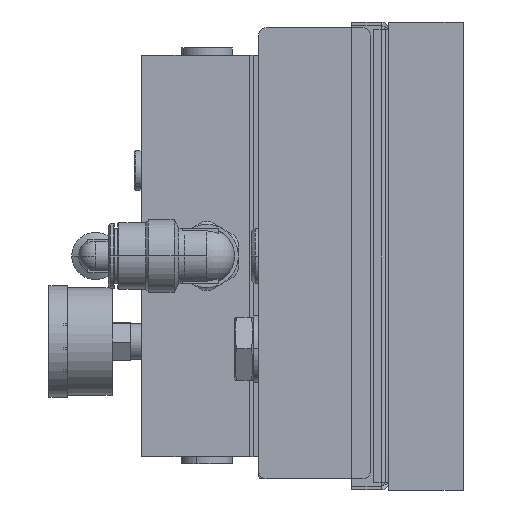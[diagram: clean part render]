
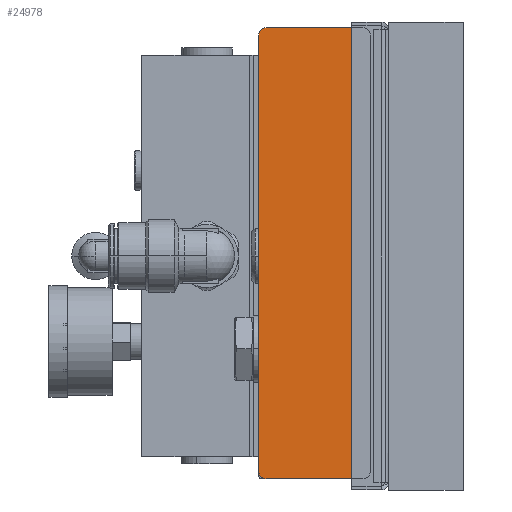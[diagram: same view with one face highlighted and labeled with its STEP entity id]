
A CAD part, left-side view. The second image highlights one B-rep face of the part: STEP entity #24978.
In plain terms, the highlighted planar face has unit normal (-1, 0, 0).
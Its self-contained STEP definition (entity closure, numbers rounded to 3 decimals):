
#198 = ORIENTED_EDGE ( 'NONE', *, *, #12422, .T. ) ;
#199 = ORIENTED_EDGE ( 'NONE', *, *, #24391, .T. ) ;
#200 = ORIENTED_EDGE ( 'NONE', *, *, #11947, .T. ) ;
#201 = ORIENTED_EDGE ( 'NONE', *, *, #24393, .T. ) ;
#202 = ORIENTED_EDGE ( 'NONE', *, *, #12434, .T. ) ;
#203 = ORIENTED_EDGE ( 'NONE', *, *, #11845, .T. ) ;
#306 = ORIENTED_EDGE ( 'NONE', *, *, #11785, .T. ) ;
#308 = ORIENTED_EDGE ( 'NONE', *, *, #12425, .T. ) ;
#1277 = DIRECTION ( 'NONE',  ( 0., 0., -1. ) ) ;
#1280 = CARTESIAN_POINT ( 'NONE',  ( -399.453, 15., -60. ) ) ;
#1282 = DIRECTION ( 'NONE',  ( 0., 1., 0. ) ) ;
#1291 = CARTESIAN_POINT ( 'NONE',  ( -399.453, -15., 61.5 ) ) ;
#2541 = VERTEX_POINT ( 'NONE', #24918 ) ;
#2685 = DIRECTION ( 'NONE',  ( 0., 0., -1. ) ) ;
#3039 = DIRECTION ( 'NONE',  ( -1., 0., 0. ) ) ;
#8381 = VERTEX_POINT ( 'NONE', #30237 ) ;
#8760 = VERTEX_POINT ( 'NONE', #30001 ) ;
#8962 = FACE_OUTER_BOUND ( 'NONE', #23412, .T. ) ;
#9131 = VERTEX_POINT ( 'NONE', #30303 ) ;
#9170 = VERTEX_POINT ( 'NONE', #30290 ) ;
#9235 = VERTEX_POINT ( 'NONE', #30503 ) ;
#9289 = VERTEX_POINT ( 'NONE', #30433 ) ;
#9992 = LINE ( 'NONE', #1291, #10019 ) ;
#10015 = VECTOR ( 'NONE', #1277, 1000. ) ;
#10018 = LINE ( 'NONE', #1280, #10015 ) ;
#10019 = VECTOR ( 'NONE', #1282, 1000. ) ;
#11785 = EDGE_CURVE ( 'NONE', #8760, #8381, #20061, .T. ) ;
#11845 = EDGE_CURVE ( 'NONE', #9289, #9131, #20086, .T. ) ;
#11947 = EDGE_CURVE ( 'NONE', #9170, #8760, #15331, .T. ) ;
#12422 = EDGE_CURVE ( 'NONE', #2541, #9235, #14735, .T. ) ;
#12425 = EDGE_CURVE ( 'NONE', #8381, #9289, #14973, .T. ) ;
#12434 = EDGE_CURVE ( 'NONE', #9131, #37704, #15614, .T. ) ;
#14735 = CIRCLE ( 'NONE', #15177, 2. ) ;
#14898 = AXIS2_PLACEMENT_3D ( 'NONE', #32736, #32435, #32753 ) ;
#14973 = CIRCLE ( 'NONE', #15181, 2. ) ;
#15177 = AXIS2_PLACEMENT_3D ( 'NONE', #16530, #16849, #17070 ) ;
#15181 = AXIS2_PLACEMENT_3D ( 'NONE', #16469, #16523, #16995 ) ;
#15185 = AXIS2_PLACEMENT_3D ( 'NONE', #32818, #3039, #2685 ) ;
#15331 = CIRCLE ( 'NONE', #14898, 2. ) ;
#15614 = CIRCLE ( 'NONE', #15185, 2. ) ;
#16469 = CARTESIAN_POINT ( 'NONE',  ( -399.453, -13., -58. ) ) ;
#16523 = DIRECTION ( 'NONE',  ( -1., 0., 0. ) ) ;
#16530 = CARTESIAN_POINT ( 'NONE',  ( -399.453, 13., 59.5 ) ) ;
#16849 = DIRECTION ( 'NONE',  ( -1., 0., 0. ) ) ;
#16995 = DIRECTION ( 'NONE',  ( 0., 0., -1. ) ) ;
#17070 = DIRECTION ( 'NONE',  ( 0., 0., -1. ) ) ;
#19450 = AXIS2_PLACEMENT_3D ( 'NONE', #21105, #21106, #21108 ) ;
#20061 = LINE ( 'NONE', #32343, #20147 ) ;
#20086 = LINE ( 'NONE', #32294, #20089 ) ;
#20089 = VECTOR ( 'NONE', #32572, 1000. ) ;
#20147 = VECTOR ( 'NONE', #32170, 1000. ) ;
#21072 = PLANE ( 'NONE',  #19450 ) ;
#21105 = CARTESIAN_POINT ( 'NONE',  ( -399.453, 15., -60. ) ) ;
#21106 = DIRECTION ( 'NONE',  ( 1., 0., 0. ) ) ;
#21108 = DIRECTION ( 'NONE',  ( 0., 0., -1. ) ) ;
#22903 = CARTESIAN_POINT ( 'NONE',  ( -399.453, -13., 61.5 ) ) ;
#23412 = EDGE_LOOP ( 'NONE', ( #199, #198, #201, #200, #306, #308, #203, #202 ) ) ;
#24391 = EDGE_CURVE ( 'NONE', #37704, #2541, #9992, .T. ) ;
#24393 = EDGE_CURVE ( 'NONE', #9235, #9170, #10018, .T. ) ;
#24918 = CARTESIAN_POINT ( 'NONE',  ( -399.453, 13., 61.5 ) ) ;
#24978 = ADVANCED_FACE ( 'NONE', ( #8962 ), #21072, .F. ) ;
#30001 = CARTESIAN_POINT ( 'NONE',  ( -399.453, 13., -60. ) ) ;
#30237 = CARTESIAN_POINT ( 'NONE',  ( -399.453, -13., -60. ) ) ;
#30290 = CARTESIAN_POINT ( 'NONE',  ( -399.453, 15., -58. ) ) ;
#30303 = CARTESIAN_POINT ( 'NONE',  ( -399.453, -15., 59.5 ) ) ;
#30433 = CARTESIAN_POINT ( 'NONE',  ( -399.453, -15., -58. ) ) ;
#30503 = CARTESIAN_POINT ( 'NONE',  ( -399.453, 15., 59.5 ) ) ;
#32170 = DIRECTION ( 'NONE',  ( 0., -1., 0. ) ) ;
#32294 = CARTESIAN_POINT ( 'NONE',  ( -399.453, -15., -60. ) ) ;
#32343 = CARTESIAN_POINT ( 'NONE',  ( -399.453, -15., -60. ) ) ;
#32435 = DIRECTION ( 'NONE',  ( -1., 0., 0. ) ) ;
#32572 = DIRECTION ( 'NONE',  ( 0., 0., 1. ) ) ;
#32736 = CARTESIAN_POINT ( 'NONE',  ( -399.453, 13., -58. ) ) ;
#32753 = DIRECTION ( 'NONE',  ( 0., 0., -1. ) ) ;
#32818 = CARTESIAN_POINT ( 'NONE',  ( -399.453, -13., 59.5 ) ) ;
#37704 = VERTEX_POINT ( 'NONE', #22903 ) ;
